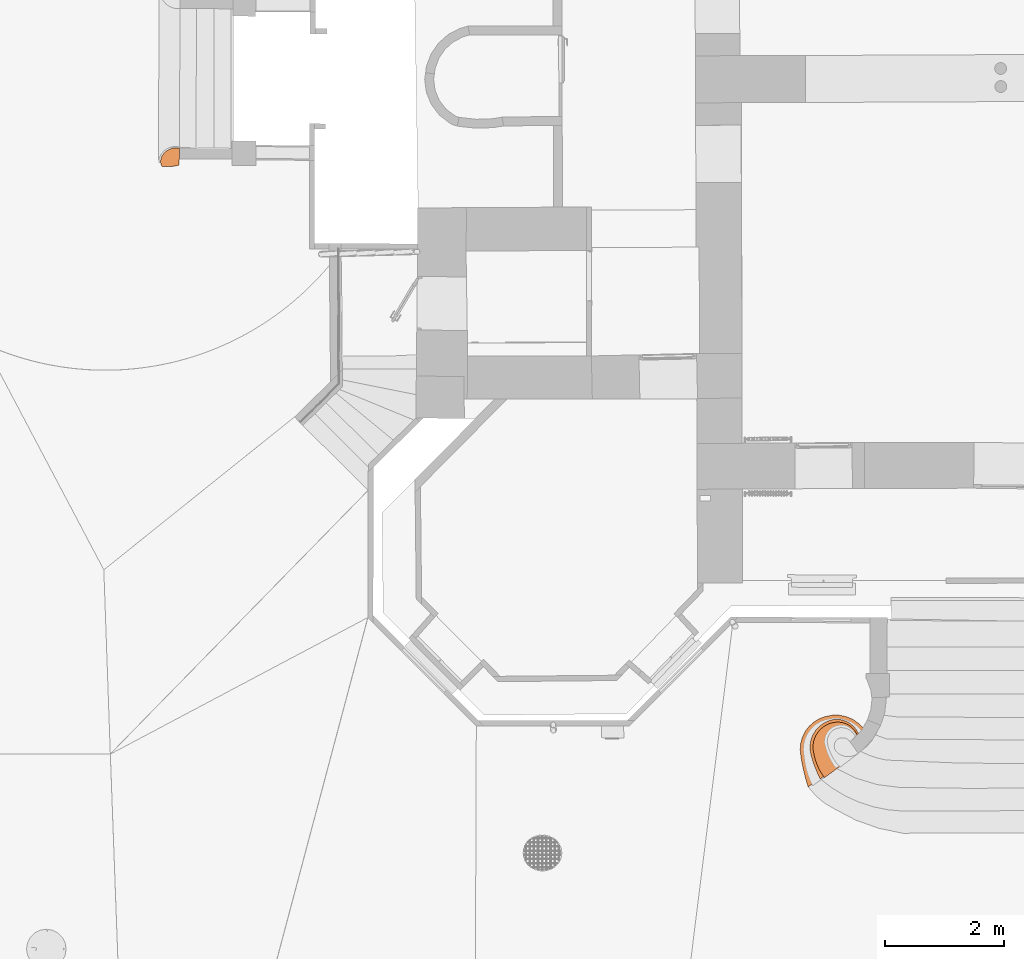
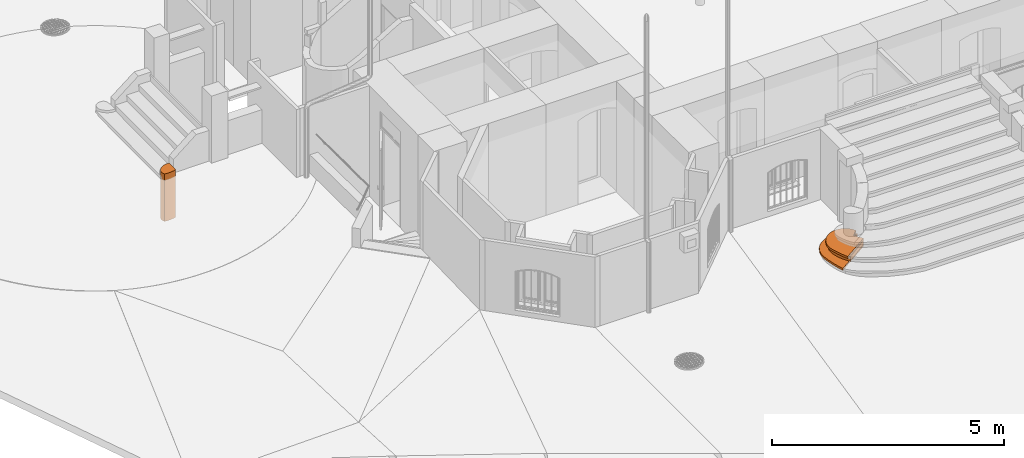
# One storey, part 124 of 133: 4 proxies.
"""IFC2X3 building model written with IfcOpenShell, lengths in centimetres."""

from ifc_helpers import new_model, entity, si_unit, converted_unit, direction, frame, origin, origin_with_axes, place, context, subcontext, project, spatial, faceted_brep, material, element, save


model = new_model("IFC2X3")

# Units and contexts
model_context = context("Model", 3, precision=0.0001, world=origin(), true_north=direction((0.225632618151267, 0.974212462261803, 0.0)))
body_context = subcontext(model_context, "Body", "Model", "MODEL_VIEW")
ifc_project = project(units=[si_unit("LENGTHUNIT", "METRE", prefix="CENTI"), si_unit("AREAUNIT", "SQUARE_METRE", prefix="CENTI"), si_unit("VOLUMEUNIT", "CUBIC_METRE", prefix="CENTI"), converted_unit("PLANEANGLEUNIT", "DEGREE", entity("IfcRatioMeasure", 0.0174532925), si_unit("PLANEANGLEUNIT", "RADIAN"), dimensions=[0, 0, 0, 0, 0, 0, 0])], contexts=[model_context])

# Site, building, storey
site_placement = place(None, origin_with_axes())
site = spatial("IfcSite", under=ifc_project, at=site_placement, Name="Default Site", CompositionType="ELEMENT")
building_placement = place(site_placement, origin_with_axes())
building = spatial("IfcBuilding", under=site, at=building_placement, Name="Default Building", CompositionType="ELEMENT")
storey_placement = place(building_placement, frame((0.0, 0.0, -291.400371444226), z_axis=(0.0, 0.0, 1.0), x_axis=(1.0, 0.0, 0.0)))
storey = spatial("IfcBuildingStorey", under=building, at=storey_placement, Name="Rez-de-Jardin", CompositionType="ELEMENT", Elevation=-291.400371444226)

# Proxies
ifc_material_1 = material(Name="Blanc")
proxy_1_placement = place(storey_placement, frame((-1587.12629271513, -180.284596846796, 0.0), z_axis=(0.0, 0.0, 1.0), x_axis=(1.0, 0.0, 0.0)))
element("IfcBuildingElementProxy", 1, at=proxy_1_placement, inside=storey, material=ifc_material_1, Name="Encombrement 322630", context=body_context, shape_type="Brep", body=[
    faceted_brep([(3.76797290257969e-05, 1.35729443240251e-06, 124.9999984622), (-5.7070355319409, 0.471056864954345, 124.9999984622), (-11.3910298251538, -0.223992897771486, 124.9999984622), (-16.8163876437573, -2.05629928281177, 124.9999984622), (-21.7579464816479, -4.94986636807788, 124.9999984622), (-26.01076172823, -8.78465039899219, 124.9999984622), (-27.6564221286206, -10.8441577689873, 124.9999984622), (-29.0402035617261, -13.0881534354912, 124.9999984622), (-30.141506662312, -15.4834614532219, 124.9999984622), (-30.9439282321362, -17.9947005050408, 124.9999984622), (-31.4356427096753, -20.5847488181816, 124.9999984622), (-31.5607647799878, -22.6576314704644, 124.9999984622), (-31.409702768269, -24.7287975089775, 124.9999984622), (-30.9853176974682, -26.7616019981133, 124.9999984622), (-30.2948574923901, -28.7200914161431, 124.9999984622), (-29.3505291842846, -30.5696712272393, 124.9999984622), (-23.53273438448, -31.1590181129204, 124.9999984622), (-17.6859478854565, -31.2582240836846, 124.9999984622), (-11.8515591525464, -30.8666215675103, 124.9999984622), (-6.07057618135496, -29.9869523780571, 124.9999984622), (-0.383720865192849, -28.6253915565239, 124.9999984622), (-0.149212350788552, -17.9993854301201, 124.9999984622), (3.76797290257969e-05, 1.35729443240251e-06, 1.03831293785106e-05), (-5.70703527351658, 0.471059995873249, 1.03831293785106e-05), (-5.70703527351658, 0.471059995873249, 124.9999984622), (-5.7070355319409, 0.471056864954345, 1.03831293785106e-05), (-11.3910313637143, -0.223980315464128, 1.03831293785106e-05), (-11.3910313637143, -0.223980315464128, 124.9999984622), (-11.3910298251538, -0.223992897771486, 1.03831293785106e-05), (-16.8163845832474, -2.05630834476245, 1.03831293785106e-05), (-16.8163845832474, -2.05630834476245, 124.9999984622), (-16.8163876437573, -2.05629928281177, 1.03831293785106e-05), (-21.7579461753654, -4.94986689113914, 1.03831293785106e-05), (-21.7579461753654, -4.94986689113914, 124.9999984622), (-21.7579464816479, -4.94986636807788, 1.03831293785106e-05), (-26.0107439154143, -8.78467015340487, 1.03831293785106e-05), (-26.0107439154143, -8.78467015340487, 124.9999984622), (-26.01076172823, -8.78465039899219, 1.03831293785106e-05), (-27.6564988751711, -10.8440964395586, 1.03831293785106e-05), (-27.6564988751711, -10.8440964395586, 124.9999984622), (-27.6564221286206, -10.8441577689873, 1.03831293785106e-05), (-29.0401677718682, -13.0881755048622, 1.03831293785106e-05), (-29.0401677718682, -13.0881755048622, 124.9999984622), (-29.0402035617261, -13.0881534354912, 1.03831293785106e-05), (-30.1414383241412, -15.4834928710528, 1.03831293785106e-05), (-30.1414383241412, -15.4834928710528, 124.9999984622), (-30.141506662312, -15.4834614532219, 1.03831293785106e-05), (-30.9439469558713, -17.9946945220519, 1.03831293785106e-05), (-30.9439469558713, -17.9946945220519, 124.9999984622), (-30.9439282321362, -17.9947005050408, 1.03831293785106e-05), (-31.4357266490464, -20.5847328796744, 1.03831293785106e-05), (-31.4357266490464, -20.5847328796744, 124.9999984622), (-31.4356427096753, -20.5847488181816, 1.03831293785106e-05), (-31.5607643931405, -22.6576314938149, 1.03831293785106e-05), (-31.5607643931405, -22.6576314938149, 124.9999984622), (-31.5607647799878, -22.6576314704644, 1.03831293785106e-05), (-31.4097340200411, -24.7287997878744, 1.03831293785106e-05), (-31.4097340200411, -24.7287997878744, 124.9999984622), (-31.409702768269, -24.7287975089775, 1.03831293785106e-05), (-30.985197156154, -26.7615768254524, 1.03831293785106e-05), (-30.985197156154, -26.7615768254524, 124.9999984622), (-30.9853176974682, -26.7616019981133, 1.03831293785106e-05), (-30.2948400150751, -28.7200852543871, 1.03831293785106e-05), (-30.2948400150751, -28.7200852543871, 124.9999984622), (-30.2948574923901, -28.7200914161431, 1.03831293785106e-05), (-29.350587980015, -30.5697012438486, 1.03831293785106e-05), (-29.350587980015, -30.5697012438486, 124.9999984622), (-29.3505291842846, -30.5696712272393, 1.03831293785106e-05), (-23.5327343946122, -31.1590182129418, 1.03831293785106e-05), (-23.5327343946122, -31.1590182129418, 124.9999984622), (-23.53273438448, -31.1590181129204, 1.03831293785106e-05), (-17.6859481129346, -31.2582374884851, 1.03831293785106e-05), (-17.6859481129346, -31.2582374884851, 124.9999984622), (-17.6859478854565, -31.2582240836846, 1.03831293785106e-05), (-11.8515593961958, -30.8666179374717, 1.03831293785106e-05), (-11.8515593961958, -30.8666179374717, 124.9999984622), (-11.8515591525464, -30.8666215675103, 1.03831293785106e-05), (-6.07057641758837, -29.9869508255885, 1.03831293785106e-05), (-6.07057641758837, -29.9869508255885, 124.9999984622), (-6.07057618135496, -29.9869523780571, 1.03831293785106e-05), (-0.38371700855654, -28.6254076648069, 1.03831293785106e-05), (-0.38371700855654, -28.6254076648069, 124.9999984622), (-0.383720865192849, -28.6253915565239, 1.03831293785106e-05), (-0.149248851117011, -17.9993846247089, 1.03831293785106e-05), (-0.149248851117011, -17.9993846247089, 124.9999984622), (-0.149212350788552, -17.9993854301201, 1.03831293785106e-05), (2.26399050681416e-05, 1.48199134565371e-06, 1.03831293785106e-05), (2.26399050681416e-05, 1.48199134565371e-06, 124.9999984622)], [[[0, 1, 2, 3, 4, 5, 6, 7, 8, 9, 10, 11, 12, 13, 14, 15, 16, 17, 18, 19, 20, 21]], [[22, 23, 24, 0]], [[25, 26, 27, 1]], [[28, 29, 30, 2]], [[31, 32, 33, 3]], [[34, 35, 36, 4]], [[37, 38, 39, 5]], [[40, 41, 42, 6]], [[43, 44, 45, 7]], [[46, 47, 48, 8]], [[49, 50, 51, 9]], [[52, 53, 54, 10]], [[55, 56, 57, 11]], [[58, 59, 60, 12]], [[61, 62, 63, 13]], [[64, 65, 66, 14]], [[67, 68, 69, 15]], [[70, 71, 72, 16]], [[73, 74, 75, 17]], [[76, 77, 78, 18]], [[79, 80, 81, 19]], [[82, 83, 84, 20]], [[85, 86, 87, 21]], [[85, 82, 79, 76, 73, 70, 67, 64, 61, 58, 55, 52, 49, 46, 43, 40, 37, 34, 31, 28, 25, 22]]]),
])
ifc_material_2 = material(Name="Béton (01)")
proxy_2_placement = place(storey_placement, frame((-460.032503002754, -1177.7795569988, 139.4), z_axis=(0.0, 0.0, 1.0), x_axis=(1.0, 0.0, 0.0)))
element("IfcBuildingElementProxy", 2, at=proxy_2_placement, inside=storey, material=ifc_material_2, Name="Encombrement 348058", context=body_context, shape_type="Brep", body=[
    faceted_brep([(-7.75469253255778e-06, -2.21637964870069e-05, 5.32766960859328), (14.1536158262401, 13.9674918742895, 5.32766960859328), (10.4949396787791, 20.4012649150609, 5.32766960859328), (5.714599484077, 26.0518806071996, 5.32766960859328), (-0.0239926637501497, 30.7261245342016, 5.32766960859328), (-6.52485669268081, 34.2643516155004, 5.32766960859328), (-13.565881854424, 36.5457313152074, 5.32766960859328), (-20.9065038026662, 37.4922530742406, 5.32766960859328), (-28.2959061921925, 37.0714919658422, 5.32766960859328), (-36.807258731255, 34.7032325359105, 5.32766960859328), (-44.7310048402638, 30.7961242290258, 5.32766960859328), (-51.7917233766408, 25.4858749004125, 5.32766960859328), (-57.7438908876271, 18.9572112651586, 5.32766960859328), (-62.3806554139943, 11.4370124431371, 5.32766960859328), (-65.540750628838, 3.18677593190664, 5.32766960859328), (-67.1143132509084, -5.50663303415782, 5.32766960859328), (-67.0466977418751, -14.3410904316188, 5.32766960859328), (-65.3401929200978, -23.0094177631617, 5.32766960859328), (-62.9588204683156, -31.162570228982, 5.32766960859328), (-60.2435189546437, -39.2106277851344, 5.32766960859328), (-57.1988660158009, -47.1400482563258, 5.32766960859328), (-53.8300591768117, -54.9371940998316, 5.32766960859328), (-50.1428204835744, -62.5889046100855, 5.32766960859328), (13.5320109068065, -19.6058494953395, 5.32766960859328), (-7.75469253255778e-06, -2.21637964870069e-05, 3.80277662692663e-06), (14.1536333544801, 13.9674741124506, 3.80277662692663e-06), (14.1536333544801, 13.9674741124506, 5.32766960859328), (14.1536158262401, 13.9674918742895, 3.80277662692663e-06), (10.4949749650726, 20.401284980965, 3.80277662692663e-06), (10.4949749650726, 20.401284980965, 5.32766960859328), (10.4949396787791, 20.4012649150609, 3.80277662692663e-06), (5.71460453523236, 26.0518848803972, 3.80277662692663e-06), (5.71460453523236, 26.0518848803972, 5.32766960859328), (5.714599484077, 26.0518806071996, 3.80277662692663e-06), (-0.0239937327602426, 30.726123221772, 3.80277662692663e-06), (-0.0239937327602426, 30.726123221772, 5.32766960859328), (-0.0239926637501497, 30.7261245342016, 3.80277662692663e-06), (-6.52485097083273, 34.2643621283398, 3.80277662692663e-06), (-6.52485097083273, 34.2643621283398, 5.32766960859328), (-6.52485669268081, 34.2643516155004, 3.80277662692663e-06), (-13.5658927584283, 36.5456976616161, 3.80277662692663e-06), (-13.5658927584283, 36.5456976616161, 5.32766960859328), (-13.565881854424, 36.5457313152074, 3.80277662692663e-06), (-20.9065069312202, 37.4922288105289, 3.80277662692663e-06), (-20.9065069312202, 37.4922288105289, 5.32766960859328), (-20.9065038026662, 37.4922530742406, 3.80277662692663e-06), (-28.2959105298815, 37.0715681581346, 3.80277662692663e-06), (-28.2959105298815, 37.0715681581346, 5.32766960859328), (-28.2959061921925, 37.0714919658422, 3.80277662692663e-06), (-36.8072535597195, 34.7032139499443, 3.80277662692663e-06), (-36.8072535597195, 34.7032139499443, 5.32766960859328), (-36.807258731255, 34.7032325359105, 3.80277662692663e-06), (-44.7309841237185, 30.7960822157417, 3.80277662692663e-06), (-44.7309841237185, 30.7960822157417, 5.32766960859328), (-44.7310048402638, 30.7961242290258, 3.80277662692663e-06), (-51.7917286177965, 25.4858818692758, 3.80277662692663e-06), (-51.7917286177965, 25.4858818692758, 5.32766960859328), (-51.7917233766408, 25.4858749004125, 3.80277662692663e-06), (-57.743890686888, 18.9572110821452, 3.80277662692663e-06), (-57.743890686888, 18.9572110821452, 5.32766960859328), (-57.7438908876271, 18.9572112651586, 3.80277662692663e-06), (-62.3806474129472, 11.4370075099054, 3.80277662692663e-06), (-62.3806474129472, 11.4370075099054, 5.32766960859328), (-62.3806554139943, 11.4370124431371, 3.80277662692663e-06), (-65.5407519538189, 3.18677643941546, 3.80277662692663e-06), (-65.5407519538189, 3.18677643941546, 5.32766960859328), (-65.540750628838, 3.18677593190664, 3.80277662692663e-06), (-67.114327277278, -5.50663049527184, 3.80277662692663e-06), (-67.114327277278, -5.50663049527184, 5.32766960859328), (-67.1143132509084, -5.50663303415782, 3.80277662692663e-06), (-67.0466881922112, -14.341090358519, 3.80277662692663e-06), (-67.0466881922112, -14.341090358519, 5.32766960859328), (-67.0466977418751, -14.3410904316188, 3.80277662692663e-06), (-65.3402161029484, -23.0094223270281, 3.80277662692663e-06), (-65.3402161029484, -23.0094223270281, 5.32766960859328), (-65.3401929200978, -23.0094177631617, 3.80277662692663e-06), (-62.9588035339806, -31.162565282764, 3.80277662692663e-06), (-62.9588035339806, -31.162565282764, 5.32766960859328), (-62.9588204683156, -31.162570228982, 3.80277662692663e-06), (-60.243508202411, -39.2106241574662, 3.80277662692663e-06), (-60.243508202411, -39.2106241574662, 5.32766960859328), (-60.2435189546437, -39.2106277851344, 3.80277662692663e-06), (-57.1988519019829, -47.1400428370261, 3.80277662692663e-06), (-57.1988519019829, -47.1400428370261, 5.32766960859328), (-57.1988660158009, -47.1400482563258, 3.80277662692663e-06), (-53.8300743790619, -54.9372006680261, 3.80277662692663e-06), (-53.8300743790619, -54.9372006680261, 5.32766960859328), (-53.8300591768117, -54.9371940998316, 3.80277662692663e-06), (-50.1428369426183, -62.5889125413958, 3.80277662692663e-06), (-50.1428369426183, -62.5889125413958, 5.32766960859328), (-50.1428204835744, -62.5889046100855, 3.80277662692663e-06), (13.5320311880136, -19.6058795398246, 3.80277662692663e-06), (13.5320311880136, -19.6058795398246, 5.32766960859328), (13.5320109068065, -19.6058494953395, 3.80277662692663e-06), (4.5360914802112e-06, -1.36806606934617e-05, 3.80277662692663e-06), (4.5360914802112e-06, -1.36806606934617e-05, 5.32766960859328)], [[[0, 1, 2, 3, 4, 5, 6, 7, 8, 9, 10, 11, 12, 13, 14, 15, 16, 17, 18, 19, 20, 21, 22, 23]], [[24, 25, 26, 0]], [[27, 28, 29, 1]], [[30, 31, 32, 2]], [[33, 34, 35, 3]], [[36, 37, 38, 4]], [[39, 40, 41, 5]], [[42, 43, 44, 6]], [[45, 46, 47, 7]], [[48, 49, 50, 8]], [[51, 52, 53, 9]], [[54, 55, 56, 10]], [[57, 58, 59, 11]], [[60, 61, 62, 12]], [[63, 64, 65, 13]], [[66, 67, 68, 14]], [[69, 70, 71, 15]], [[72, 73, 74, 16]], [[75, 76, 77, 17]], [[78, 79, 80, 18]], [[81, 82, 83, 19]], [[84, 85, 86, 20]], [[87, 88, 89, 21]], [[90, 91, 92, 22]], [[93, 94, 95, 23]], [[93, 90, 87, 84, 81, 78, 75, 72, 69, 66, 63, 60, 57, 54, 51, 48, 45, 42, 39, 36, 33, 30, 27, 24]]]),
])
proxy_3_placement = place(storey_placement, frame((-459.975081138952, -1177.62881186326, 128.3), z_axis=(0.0, 0.0, 1.0), x_axis=(1.0, 0.0, 0.0)))
element("IfcBuildingElementProxy", 3, at=proxy_3_placement, inside=storey, material=ifc_material_2, Name="Encombrement 348057", context=body_context, shape_type="Brep", body=[
    faceted_brep([(-1.84246468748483e-05, 8.61008206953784e-06, 10.927674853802), (11.8140036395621, 11.6585817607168, 10.927674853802), (8.4765250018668, 17.5965395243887, 10.927674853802), (4.06573360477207, 22.7871980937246, 10.927674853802), (-1.2557690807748, 27.0392504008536, 10.927674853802), (-7.29176456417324, 30.1959123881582, 10.927674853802), (-13.8198083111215, 32.1408357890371, 10.927674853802), (-20.5992406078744, 32.8023042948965, 10.927674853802), (-27.380103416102, 32.155999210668, 10.927674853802), (-35.0206559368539, 30.033310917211, 10.927674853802), (-42.1321099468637, 26.5245523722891, 10.927674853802), (-48.4654133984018, 21.7524614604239, 10.927674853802), (-53.7989323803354, 15.884026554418, 10.927674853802), (-57.9459374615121, 9.12485983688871, 10.927674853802), (-60.7612317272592, 1.71147253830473, 10.927674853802), (-62.1463006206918, -6.09654519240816, 10.927674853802), (-62.0526021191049, -14.0259656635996, 10.927674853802), (-60.4834740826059, -21.799078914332, 10.927674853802), (-58.41462070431, -30.1697644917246, 10.927674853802), (-55.5976575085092, -38.3192929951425, 10.927674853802), (-52.0556157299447, -46.1808118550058, 10.927674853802), (-47.8175347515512, -53.689948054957, 10.927674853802), (-42.9180806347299, -60.7853803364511, 10.927674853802), (13.5320002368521, -19.6058187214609, 10.927674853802), (-1.84246468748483e-05, 8.61008206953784e-06, -2.30073899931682e-06), (11.8139665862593, 11.658619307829, -2.30073899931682e-06), (11.8139665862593, 11.658619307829, 10.927674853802), (11.8140036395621, 11.6585817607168, -2.30073899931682e-06), (8.47650316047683, 17.5965272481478, -2.30073899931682e-06), (8.47650316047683, 17.5965272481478, 10.927674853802), (8.4765250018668, 17.5965395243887, -2.30073899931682e-06), (4.06573418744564, 22.7871985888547, -2.30073899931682e-06), (4.06573418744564, 22.7871985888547, 10.927674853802), (4.06573360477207, 22.7871980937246, -2.30073899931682e-06), (-1.25577248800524, 27.0392461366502, -2.30073899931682e-06), (-1.25577248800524, 27.0392461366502, 10.927674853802), (-1.2557690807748, 27.0392504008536, -2.30073899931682e-06), (-7.29176877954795, 30.1959043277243, -2.30073899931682e-06), (-7.29176877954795, 30.1959043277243, 10.927674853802), (-7.29176456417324, 30.1959123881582, -2.30073899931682e-06), (-13.8198067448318, 32.1408410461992, -2.30073899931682e-06), (-13.8198067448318, 32.1408410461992, 10.927674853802), (-13.8198083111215, 32.1408357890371, -2.30073899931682e-06), (-20.5992378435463, 32.8023326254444, -2.30073899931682e-06), (-20.5992378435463, 32.8023326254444, 10.927674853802), (-20.5992406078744, 32.8023042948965, -2.30073899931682e-06), (-27.3801019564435, 32.1559838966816, -2.30073899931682e-06), (-27.3801019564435, 32.1559838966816, 10.927674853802), (-27.380103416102, 32.155999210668, -2.30073899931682e-06), (-35.0206622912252, 30.0333337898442, -2.30073899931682e-06), (-35.0206622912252, 30.0333337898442, 10.927674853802), (-35.0206559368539, 30.033310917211, -2.30073899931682e-06), (-42.132084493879, 26.5245007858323, -2.30073899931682e-06), (-42.132084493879, 26.5245007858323, 10.927674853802), (-42.1321099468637, 26.5245523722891, -2.30073899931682e-06), (-48.4654104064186, 21.7524574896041, -2.30073899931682e-06), (-48.4654104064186, 21.7524574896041, 10.927674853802), (-48.4654133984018, 21.7524614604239, -2.30073899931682e-06), (-53.7989675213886, 15.8840584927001, -2.30073899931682e-06), (-53.7989675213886, 15.8840584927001, 10.927674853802), (-53.7989323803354, 15.884026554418, -2.30073899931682e-06), (-57.9459273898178, 9.12485365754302, -2.30073899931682e-06), (-57.9459273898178, 9.12485365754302, 10.927674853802), (-57.9459374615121, 9.12485983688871, -2.30073899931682e-06), (-60.7612459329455, 1.71147793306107, -2.30073899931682e-06), (-60.7612459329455, 1.71147793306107, 10.927674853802), (-60.7612317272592, 1.71147253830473, -2.30073899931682e-06), (-62.1462844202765, -6.09654806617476, -2.30073899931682e-06), (-62.1462844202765, -6.09654806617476, 10.927674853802), (-62.1463006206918, -6.09654519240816, -2.30073899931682e-06), (-62.0526245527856, -14.0259659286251, -2.30073899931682e-06), (-62.0526245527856, -14.0259659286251, 10.927674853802), (-62.0526021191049, -14.0259656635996, -2.30073899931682e-06), (-60.4834792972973, -21.7990799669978, -2.30073899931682e-06), (-60.4834792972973, -21.7990799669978, 10.927674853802), (-60.4834740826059, -21.799078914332, -2.30073899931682e-06), (-58.4146360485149, -30.1697682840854, -2.30073899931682e-06), (-58.4146360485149, -30.1697682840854, 10.927674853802), (-58.41462070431, -30.1697644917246, -2.30073899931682e-06), (-55.5976378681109, -38.3192862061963, -2.30073899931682e-06), (-55.5976378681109, -38.3192862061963, 10.927674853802), (-55.5976575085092, -38.3192929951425, -2.30073899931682e-06), (-52.0556252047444, -46.1808161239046, -2.30073899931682e-06), (-52.0556252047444, -46.1808161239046, 10.927674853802), (-52.0556157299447, -46.1808118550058, -2.30073899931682e-06), (-47.8175497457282, -53.6899565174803, -2.30073899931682e-06), (-47.8175497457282, -53.6899565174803, 10.927674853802), (-47.8175347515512, -53.689948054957, -2.30073899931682e-06), (-42.9180584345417, -60.7853650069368, -2.30073899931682e-06), (-42.9180584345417, -60.7853650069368, 10.927674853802), (-42.9180806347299, -60.7853803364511, -2.30073899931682e-06), (13.5320212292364, -19.6058474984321, -2.30073899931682e-06), (13.5320212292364, -19.6058474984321, 10.927674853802), (13.5320002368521, -19.6058187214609, -2.30073899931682e-06), (-6.13386286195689e-06, 1.70932178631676e-05, -2.30073899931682e-06), (-6.13386286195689e-06, 1.70932178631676e-05, 10.927674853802)], [[[0, 1, 2, 3, 4, 5, 6, 7, 8, 9, 10, 11, 12, 13, 14, 15, 16, 17, 18, 19, 20, 21, 22, 23]], [[24, 25, 26, 0]], [[27, 28, 29, 1]], [[30, 31, 32, 2]], [[33, 34, 35, 3]], [[36, 37, 38, 4]], [[39, 40, 41, 5]], [[42, 43, 44, 6]], [[45, 46, 47, 7]], [[48, 49, 50, 8]], [[51, 52, 53, 9]], [[54, 55, 56, 10]], [[57, 58, 59, 11]], [[60, 61, 62, 12]], [[63, 64, 65, 13]], [[66, 67, 68, 14]], [[69, 70, 71, 15]], [[72, 73, 74, 16]], [[75, 76, 77, 17]], [[78, 79, 80, 18]], [[81, 82, 83, 19]], [[84, 85, 86, 20]], [[87, 88, 89, 21]], [[90, 91, 92, 22]], [[93, 94, 95, 23]], [[93, 90, 87, 84, 81, 78, 75, 72, 69, 66, 63, 60, 57, 54, 51, 48, 45, 42, 39, 36, 33, 30, 27, 24]]]),
])
proxy_4_placement = place(storey_placement, frame((-501.575365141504, -1135.66049482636, 123.2), z_axis=(0.0, 0.0, 1.0), x_axis=(1.0, 0.0, 0.0)))
element("IfcBuildingElementProxy", 4, at=proxy_4_placement, inside=storey, material=ifc_material_2, Name="Encombrement 348056", context=body_context, shape_type="Brep", body=[
    faceted_brep([(-9.46176745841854e-06, 3.72152722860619e-05, 5.16383427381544), (-10.0465392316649, -3.71099565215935, 5.16383427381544), (-19.2158316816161, -9.24526307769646, 5.16383427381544), (-27.1805381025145, -16.4053544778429, 5.16383427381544), (-33.6564635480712, -24.9356851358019, 5.16383427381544), (-38.4124373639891, -34.5318422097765, 5.16383427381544), (-41.2786578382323, -44.851170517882, 5.16383427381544), (-42.1528434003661, -55.5254564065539, 5.16383427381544), (-41.003808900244, -66.1736116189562, 5.16383427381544), (-39.2901515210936, -76.7608270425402, 5.16383427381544), (-37.193641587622, -87.2789010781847, 5.16383427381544), (-34.7170447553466, -97.7140054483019, 5.16383427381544), (-31.8636035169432, -108.052502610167, 5.16383427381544), (-28.6371325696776, -118.280659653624, 5.16383427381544), (55.1322842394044, -61.5741357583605, 5.16383427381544), (41.413011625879, -42.1531305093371, 5.16383427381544), (64.1471291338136, -19.7180375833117, 5.16383427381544), (55.8271790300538, -11.2814531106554, 5.16383427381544), (46.0125351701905, -4.6428308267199, 5.16383427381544), (35.0853825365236, -0.0609025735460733, 5.16383427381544), (23.4712029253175, 2.28608991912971, 5.16383427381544), (11.622276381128, 2.30659391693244, 5.16383427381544), (-9.46176745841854e-06, 3.72152722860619e-05, -2.20537157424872e-06), (-10.046562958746, -3.71093141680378, -2.20537157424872e-06), (-10.046562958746, -3.71093141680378, 5.16383427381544), (-10.0465392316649, -3.71099565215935, -2.20537157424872e-06), (-19.2158137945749, -9.2452927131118, -2.20537157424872e-06), (-19.2158137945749, -9.2452927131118, 5.16383427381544), (-19.2158316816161, -9.24526307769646, -2.20537157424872e-06), (-27.1805489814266, -16.4053423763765, -2.20537157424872e-06), (-27.1805489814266, -16.4053423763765, 5.16383427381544), (-27.1805381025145, -16.4053544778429, -2.20537157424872e-06), (-33.6564560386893, -24.9356908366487, -2.20537157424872e-06), (-33.6564560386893, -24.9356908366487, 5.16383427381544), (-33.6564635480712, -24.9356851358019, -2.20537157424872e-06), (-38.4124410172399, -34.5318403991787, -2.20537157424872e-06), (-38.4124410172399, -34.5318403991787, 5.16383427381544), (-38.4124373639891, -34.5318422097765, -2.20537157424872e-06), (-41.2786585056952, -44.8511703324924, -2.20537157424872e-06), (-41.2786585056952, -44.8511703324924, 5.16383427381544), (-41.2786578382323, -44.851170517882, -2.20537157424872e-06), (-42.1528582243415, -55.525455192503, -2.20537157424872e-06), (-42.1528582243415, -55.525455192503, 5.16383427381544), (-42.1528434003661, -55.5254564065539, -2.20537157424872e-06), (-41.0038152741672, -66.1736123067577, -2.20537157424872e-06), (-41.0038152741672, -66.1736123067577, 5.16383427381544), (-41.003808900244, -66.1736116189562, -2.20537157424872e-06), (-39.2901387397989, -76.7608249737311, -2.20537157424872e-06), (-39.2901387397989, -76.7608249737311, 5.16383427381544), (-39.2901515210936, -76.7608270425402, -2.20537157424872e-06), (-37.1936435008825, -87.2789014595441, -2.20537157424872e-06), (-37.1936435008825, -87.2789014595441, 5.16383427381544), (-37.193641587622, -87.2789010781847, -2.20537157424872e-06), (-34.7170535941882, -97.7140075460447, -2.20537157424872e-06), (-34.7170535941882, -97.7140075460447, 5.16383427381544), (-34.7170447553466, -97.7140054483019, -2.20537157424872e-06), (-31.8636111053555, -108.052504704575, -2.20537157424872e-06), (-31.8636111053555, -108.052504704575, 5.16383427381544), (-31.8636035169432, -108.052502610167, -2.20537157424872e-06), (-28.6371163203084, -118.280654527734, -2.20537157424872e-06), (-28.6371163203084, -118.280654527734, 5.16383427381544), (-28.6371325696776, -118.280659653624, -2.20537157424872e-06), (55.1323034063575, -61.5741640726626, -2.20537157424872e-06), (55.1323034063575, -61.5741640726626, 5.16383427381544), (55.1322842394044, -61.5741357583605, -2.20537157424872e-06), (41.4130168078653, -42.1531268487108, -2.20537157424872e-06), (41.4130168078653, -42.1531268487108, 5.16383427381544), (41.413011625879, -42.1531305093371, -2.20537157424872e-06), (64.1471133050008, -19.7180215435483, -2.20537157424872e-06), (64.1471133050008, -19.7180215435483, 5.16383427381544), (64.1471291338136, -19.7180375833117, -2.20537157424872e-06), (55.827198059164, -11.2814343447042, -2.20537157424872e-06), (55.827198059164, -11.2814343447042, 5.16383427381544), (55.8271790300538, -11.2814531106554, -2.20537157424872e-06), (46.0124953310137, -4.64288972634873, -2.20537157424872e-06), (46.0124953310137, -4.64288972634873, 5.16383427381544), (46.0125351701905, -4.6428308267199, -2.20537157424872e-06), (35.0853922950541, -0.0608793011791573, -2.20537157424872e-06), (35.0853922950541, -0.0608793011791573, 5.16383427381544), (35.0853825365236, -0.0609025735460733, -2.20537157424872e-06), (23.4711971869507, 2.28606152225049, -2.20537157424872e-06), (23.4711971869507, 2.28606152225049, 5.16383427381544), (23.4712029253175, 2.28608991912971, -2.20537157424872e-06), (11.6222764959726, 2.30666007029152, -2.20537157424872e-06), (11.6222764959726, 2.30666007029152, 5.16383427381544), (11.622276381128, 2.30659391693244, -2.20537157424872e-06), (4.38312423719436e-06, -3.25442227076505e-05, -2.20537157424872e-06), (4.38312423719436e-06, -3.25442227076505e-05, 5.16383427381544)], [[[0, 1, 2, 3, 4, 5, 6, 7, 8, 9, 10, 11, 12, 13, 14, 15, 16, 17, 18, 19, 20, 21]], [[22, 23, 24, 0]], [[25, 26, 27, 1]], [[28, 29, 30, 2]], [[31, 32, 33, 3]], [[34, 35, 36, 4]], [[37, 38, 39, 5]], [[40, 41, 42, 6]], [[43, 44, 45, 7]], [[46, 47, 48, 8]], [[49, 50, 51, 9]], [[52, 53, 54, 10]], [[55, 56, 57, 11]], [[58, 59, 60, 12]], [[61, 62, 63, 13]], [[64, 65, 66, 14]], [[67, 68, 69, 15]], [[70, 71, 72, 16]], [[73, 74, 75, 17]], [[76, 77, 78, 18]], [[79, 80, 81, 19]], [[82, 83, 84, 20]], [[85, 86, 87, 21]], [[85, 82, 79, 76, 73, 70, 67, 64, 61, 58, 55, 52, 49, 46, 43, 40, 37, 34, 31, 28, 25, 22]]]),
])

save(model, "model.ifc")
